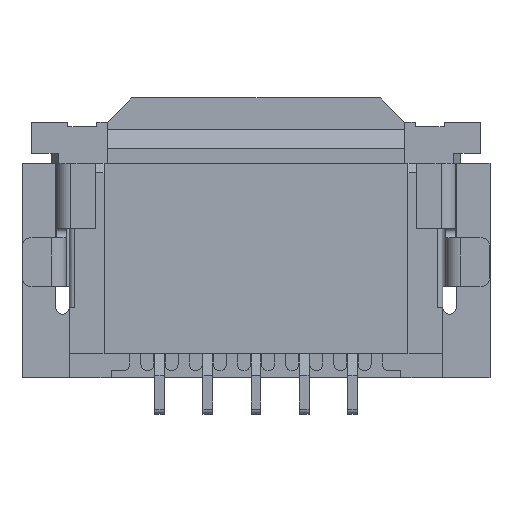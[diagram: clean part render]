
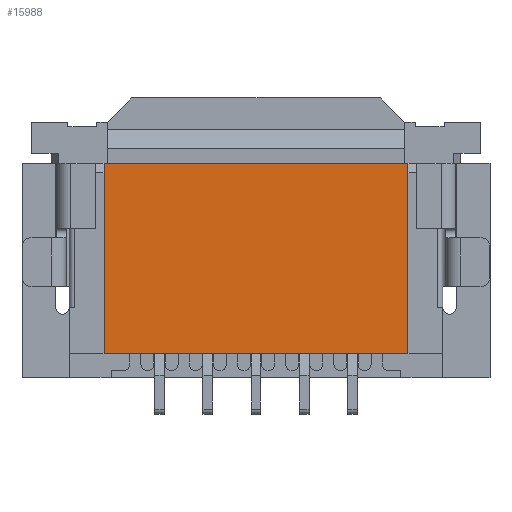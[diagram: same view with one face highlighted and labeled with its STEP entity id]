
A CAD part, front view. The second image highlights one B-rep face of the part: STEP entity #15988.
In plain terms, the highlighted planar face has unit normal (0, -1, 0).
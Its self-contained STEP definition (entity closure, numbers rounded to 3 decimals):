
#1518=DIRECTION('',(-1.,0.,0.));
#1519=VECTOR('',#1518,6.3);
#1520=CARTESIAN_POINT('',(5.65,0.,0.));
#1521=LINE('',#1520,#1519);
#1522=DIRECTION('',(-1.,0.,0.));
#1523=VECTOR('',#1522,6.3);
#1524=CARTESIAN_POINT('',(5.65,0.,-3.95));
#1525=LINE('',#1524,#1523);
#1534=DIRECTION('',(0.,0.,1.));
#1535=VECTOR('',#1534,3.95);
#1536=CARTESIAN_POINT('',(-0.65,0.,-3.95));
#1537=LINE('',#1536,#1535);
#1566=DIRECTION('',(0.,0.,1.));
#1567=VECTOR('',#1566,3.95);
#1568=CARTESIAN_POINT('',(5.65,0.,-3.95));
#1569=LINE('',#1568,#1567);
#10668=CARTESIAN_POINT('',(5.65,0.,-3.95));
#10669=VERTEX_POINT('',#10668);
#10714=CARTESIAN_POINT('',(5.65,0.,0.));
#10715=VERTEX_POINT('',#10714);
#12198=CARTESIAN_POINT('',(-0.65,0.,-3.95));
#12199=VERTEX_POINT('',#12198);
#12244=CARTESIAN_POINT('',(-0.65,0.,0.));
#12245=VERTEX_POINT('',#12244);
#15975=CARTESIAN_POINT('',(1.,0.,-1.975));
#15976=DIRECTION('',(0.,1.,0.));
#15977=DIRECTION('',(0.,0.,-1.));
#15978=AXIS2_PLACEMENT_3D('',#15975,#15976,#15977);
#15979=PLANE('',#15978);
#15980=ORIENTED_EDGE('',*,*,#14562,.T.);
#15982=ORIENTED_EDGE('',*,*,#15981,.T.);
#15983=ORIENTED_EDGE('',*,*,#15880,.F.);
#15985=ORIENTED_EDGE('',*,*,#15984,.F.);
#15986=EDGE_LOOP('',(#15980,#15982,#15983,#15985));
#15987=FACE_OUTER_BOUND('',#15986,.F.);
#14562=EDGE_CURVE('',#10669,#12199,#1525,.T.);
#15880=EDGE_CURVE('',#10715,#12245,#1521,.T.);
#15981=EDGE_CURVE('',#12199,#12245,#1537,.T.);
#15984=EDGE_CURVE('',#10669,#10715,#1569,.T.);
#15988=ADVANCED_FACE('',(#15987),#15979,.F.);
